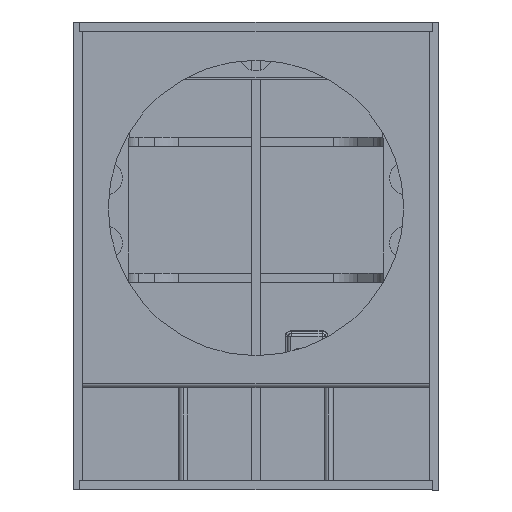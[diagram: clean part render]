
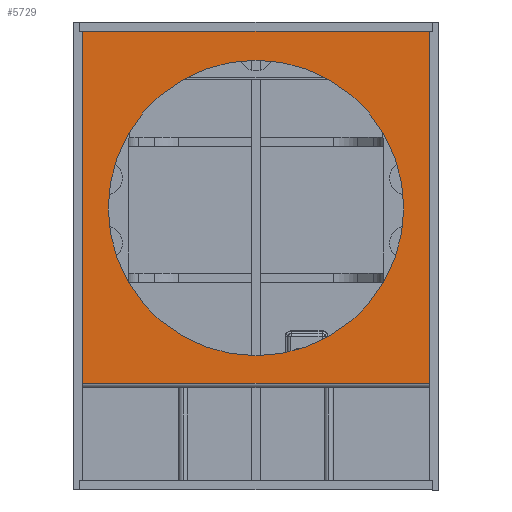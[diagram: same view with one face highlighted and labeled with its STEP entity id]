
A CAD part, front view. The second image highlights one B-rep face of the part: STEP entity #5729.
In plain terms, the highlighted planar face has unit normal (0, -1, 0).
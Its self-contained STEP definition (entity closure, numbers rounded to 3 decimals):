
#3827=FACE_BOUND('',#9637,.T.);
#3828=FACE_BOUND('',#9638,.T.);
#5729=ADVANCED_FACE('',(#3827,#3828),#6436,.T.);
#6436=PLANE('',#31601);
#9637=EDGE_LOOP('',(#16368,#16369,#16370,#16371));
#9638=EDGE_LOOP('',(#16372));
#16368=ORIENTED_EDGE('',*,*,#23889,.F.);
#16369=ORIENTED_EDGE('',*,*,#23900,.T.);
#16370=ORIENTED_EDGE('',*,*,#23895,.F.);
#16371=ORIENTED_EDGE('',*,*,#23893,.F.);
#16372=ORIENTED_EDGE('',*,*,#23898,.F.);
#20230=VERTEX_POINT('',#61296);
#20231=VERTEX_POINT('',#61298);
#20234=VERTEX_POINT('',#61306);
#20235=VERTEX_POINT('',#61310);
#20236=VERTEX_POINT('',#61315);
#23889=EDGE_CURVE('',#20230,#20231,#27667,.T.);
#23893=EDGE_CURVE('',#20231,#20234,#27671,.T.);
#23895=EDGE_CURVE('',#20234,#20235,#27673,.T.);
#23898=EDGE_CURVE('',#20236,#20236,#26209,.T.);
#23900=EDGE_CURVE('',#20230,#20235,#27675,.T.);
#26209=CIRCLE('',#31598,286.);
#27667=LINE('',#61297,#29040);
#27671=LINE('',#61305,#29044);
#27673=LINE('',#61309,#29046);
#27675=LINE('',#61319,#29048);
#29040=VECTOR('',#37472,1.);
#29044=VECTOR('',#37478,1.);
#29046=VECTOR('',#37482,1.);
#29048=VECTOR('',#37494,1.);
#31598=AXIS2_PLACEMENT_3D('',#61314,#37488,#37489);
#31601=AXIS2_PLACEMENT_3D('',#61320,#37495,#37496);
#37472=DIRECTION('',(0.,0.,1.));
#37478=DIRECTION('',(1.,0.,0.));
#37482=DIRECTION('',(0.,0.,-1.));
#37488=DIRECTION('',(0.,-1.,0.));
#37489=DIRECTION('',(1.,0.,0.));
#37494=DIRECTION('',(1.,0.,0.));
#37495=DIRECTION('',(0.,-1.,0.));
#37496=DIRECTION('',(0.,0.,-1.));
#61296=CARTESIAN_POINT('',(-341.,-18.,-339.));
#61297=CARTESIAN_POINT('',(-341.,-18.,-348.));
#61298=CARTESIAN_POINT('',(-341.,-18.,348.));
#61305=CARTESIAN_POINT('',(-341.,-18.,348.));
#61306=CARTESIAN_POINT('',(341.,-18.,348.));
#61309=CARTESIAN_POINT('',(341.,-18.,348.));
#61310=CARTESIAN_POINT('',(341.,-18.,-339.));
#61314=CARTESIAN_POINT('',(0.,-18.,0.));
#61315=CARTESIAN_POINT('',(286.,-18.,0.));
#61319=CARTESIAN_POINT('',(0.,-18.,-339.));
#61320=CARTESIAN_POINT('',(0.,-18.,0.));
